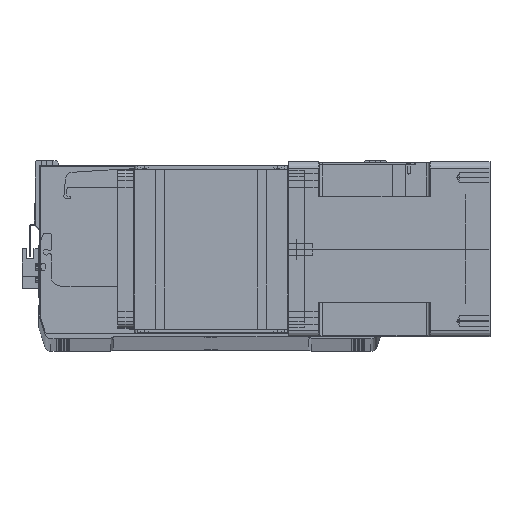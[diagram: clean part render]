
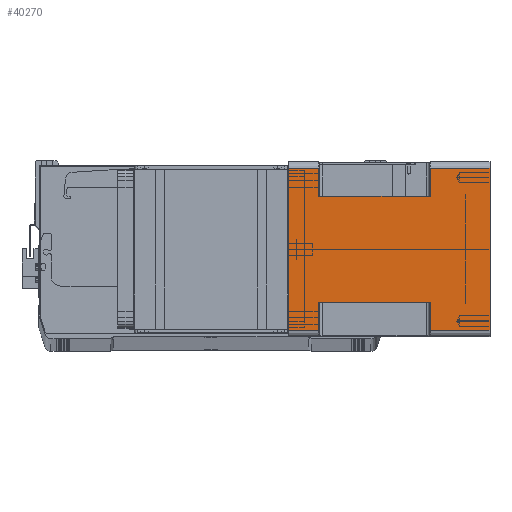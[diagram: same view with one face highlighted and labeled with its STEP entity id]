
A CAD part, top view. The second image highlights one B-rep face of the part: STEP entity #40270.
In plain terms, the highlighted planar face has unit normal (0, 0, 1) as drawn and (1, 0, 0) by its records, which use the part's own axes.
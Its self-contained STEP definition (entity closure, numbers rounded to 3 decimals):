
#286 = CARTESIAN_POINT ( 'NONE',  ( 71., 43., -24.5 ) ) ;
#332 = CARTESIAN_POINT ( 'NONE',  ( 71., 66., -115.5 ) ) ;
#532 = VECTOR ( 'NONE', #41783, 1000. ) ;
#1538 = LINE ( 'NONE', #38523, #532 ) ;
#2046 = EDGE_CURVE ( 'NONE', #23356, #14205, #10011, .T. ) ;
#2096 = DIRECTION ( 'NONE',  ( 0., 1., 0. ) ) ;
#2131 = VECTOR ( 'NONE', #22736, 1000. ) ;
#2623 = VERTEX_POINT ( 'NONE', #6159 ) ;
#2769 = LINE ( 'NONE', #17365, #6338 ) ;
#3198 = CARTESIAN_POINT ( 'NONE',  ( 71., 43., -115.5 ) ) ;
#4113 = CARTESIAN_POINT ( 'NONE',  ( 71., -43., -164. ) ) ;
#5347 = DIRECTION ( 'NONE',  ( 0., 1., 0. ) ) ;
#5501 = VECTOR ( 'NONE', #40144, 1000. ) ;
#5644 = CARTESIAN_POINT ( 'NONE',  ( 71., -66., -164. ) ) ;
#5994 = CARTESIAN_POINT ( 'NONE',  ( 71., -43., -24.5 ) ) ;
#6159 = CARTESIAN_POINT ( 'NONE',  ( 71., -66., -115.5 ) ) ;
#6338 = VECTOR ( 'NONE', #36362, 1000. ) ;
#6934 = VERTEX_POINT ( 'NONE', #28889 ) ;
#7544 = EDGE_CURVE ( 'NONE', #13411, #41571, #33451, .T. ) ;
#8019 = VERTEX_POINT ( 'NONE', #39086 ) ;
#8432 = LINE ( 'NONE', #4113, #18070 ) ;
#8970 = EDGE_CURVE ( 'NONE', #13411, #2623, #34731, .T. ) ;
#9377 = DIRECTION ( 'NONE',  ( 0., 1., 0. ) ) ;
#9381 = EDGE_CURVE ( 'NONE', #41571, #41875, #27566, .T. ) ;
#10011 = LINE ( 'NONE', #12166, #13576 ) ;
#10239 = AXIS2_PLACEMENT_3D ( 'NONE', #35001, #25083, #5347 ) ;
#10729 = ORIENTED_EDGE ( 'NONE', *, *, #7544, .T. ) ;
#12166 = CARTESIAN_POINT ( 'NONE',  ( 71., 43., -164. ) ) ;
#12593 = CARTESIAN_POINT ( 'NONE',  ( 71., -66., -164. ) ) ;
#12986 = LINE ( 'NONE', #27805, #15032 ) ;
#13411 = VERTEX_POINT ( 'NONE', #12593 ) ;
#13576 = VECTOR ( 'NONE', #18961, 1000. ) ;
#14205 = VERTEX_POINT ( 'NONE', #18118 ) ;
#14428 = VECTOR ( 'NONE', #15597, 1000. ) ;
#14535 = LINE ( 'NONE', #15610, #41931 ) ;
#14859 = EDGE_LOOP ( 'NONE', ( #20640, #42116, #25027, #10729, #18561, #17161, #32919, #24262, #33661, #16379, #39282, #23351 ) ) ;
#15032 = VECTOR ( 'NONE', #21409, 1000. ) ;
#15562 = CARTESIAN_POINT ( 'NONE',  ( 71., 66., -24.5 ) ) ;
#15597 = DIRECTION ( 'NONE',  ( 0., 0., 1. ) ) ;
#15610 = CARTESIAN_POINT ( 'NONE',  ( 71., -66., -24.5 ) ) ;
#16379 = ORIENTED_EDGE ( 'NONE', *, *, #33380, .F. ) ;
#16878 = DIRECTION ( 'NONE',  ( 0., 1., 0. ) ) ;
#17161 = ORIENTED_EDGE ( 'NONE', *, *, #39564, .T. ) ;
#17164 = EDGE_CURVE ( 'NONE', #23356, #21871, #14535, .T. ) ;
#17365 = CARTESIAN_POINT ( 'NONE',  ( 71., -66., 0. ) ) ;
#17405 = EDGE_CURVE ( 'NONE', #22379, #6934, #12986, .T. ) ;
#18070 = VECTOR ( 'NONE', #29942, 1000. ) ;
#18118 = CARTESIAN_POINT ( 'NONE',  ( 71., 43., -115.5 ) ) ;
#18561 = ORIENTED_EDGE ( 'NONE', *, *, #9381, .T. ) ;
#18700 = CARTESIAN_POINT ( 'NONE',  ( 71., -43., -24.5 ) ) ;
#18812 = EDGE_CURVE ( 'NONE', #22379, #28773, #29674, .T. ) ;
#18961 = DIRECTION ( 'NONE',  ( 0., 0., -1. ) ) ;
#20431 = VECTOR ( 'NONE', #35698, 1000. ) ;
#20640 = ORIENTED_EDGE ( 'NONE', *, *, #29045, .F. ) ;
#21014 = VECTOR ( 'NONE', #2096, 1000. ) ;
#21409 = DIRECTION ( 'NONE',  ( 0., 0., 1. ) ) ;
#21774 = VECTOR ( 'NONE', #16878, 1000. ) ;
#21871 = VERTEX_POINT ( 'NONE', #15562 ) ;
#22379 = VERTEX_POINT ( 'NONE', #40209 ) ;
#22736 = DIRECTION ( 'NONE',  ( 0., 0., 1. ) ) ;
#23351 = ORIENTED_EDGE ( 'NONE', *, *, #18812, .T. ) ;
#23356 = VERTEX_POINT ( 'NONE', #286 ) ;
#24262 = ORIENTED_EDGE ( 'NONE', *, *, #17164, .T. ) ;
#25027 = ORIENTED_EDGE ( 'NONE', *, *, #8970, .F. ) ;
#25083 = DIRECTION ( 'NONE',  ( 1., 0., 0. ) ) ;
#26293 = CARTESIAN_POINT ( 'NONE',  ( 71., 66., -164. ) ) ;
#27179 = CARTESIAN_POINT ( 'NONE',  ( 71., 66., -164. ) ) ;
#27566 = LINE ( 'NONE', #26293, #2131 ) ;
#27805 = CARTESIAN_POINT ( 'NONE',  ( 71., -66., -164. ) ) ;
#28773 = VERTEX_POINT ( 'NONE', #5994 ) ;
#28823 = CARTESIAN_POINT ( 'NONE',  ( 71., 66., 0. ) ) ;
#28889 = CARTESIAN_POINT ( 'NONE',  ( 71., -66., 0. ) ) ;
#29045 = EDGE_CURVE ( 'NONE', #8019, #28773, #8432, .T. ) ;
#29085 = LINE ( 'NONE', #3198, #20431 ) ;
#29674 = LINE ( 'NONE', #18700, #21014 ) ;
#29942 = DIRECTION ( 'NONE',  ( 0., 0., 1. ) ) ;
#31398 = LINE ( 'NONE', #33911, #5501 ) ;
#31524 = FACE_OUTER_BOUND ( 'NONE', #14859, .T. ) ;
#32354 = VERTEX_POINT ( 'NONE', #28823 ) ;
#32919 = ORIENTED_EDGE ( 'NONE', *, *, #2046, .F. ) ;
#33380 = EDGE_CURVE ( 'NONE', #6934, #32354, #2769, .T. ) ;
#33451 = LINE ( 'NONE', #35896, #21774 ) ;
#33661 = ORIENTED_EDGE ( 'NONE', *, *, #37014, .T. ) ;
#33911 = CARTESIAN_POINT ( 'NONE',  ( 71., 66., -164. ) ) ;
#34731 = LINE ( 'NONE', #5644, #14428 ) ;
#35001 = CARTESIAN_POINT ( 'NONE',  ( 71., -66., -164. ) ) ;
#35698 = DIRECTION ( 'NONE',  ( 0., -1., 0. ) ) ;
#35896 = CARTESIAN_POINT ( 'NONE',  ( 71., -66., -164. ) ) ;
#36362 = DIRECTION ( 'NONE',  ( 0., 1., 0. ) ) ;
#36382 = EDGE_CURVE ( 'NONE', #8019, #2623, #1538, .T. ) ;
#37014 = EDGE_CURVE ( 'NONE', #21871, #32354, #31398, .T. ) ;
#37943 = PLANE ( 'NONE',  #10239 ) ;
#38523 = CARTESIAN_POINT ( 'NONE',  ( 71., -66., -115.5 ) ) ;
#39086 = CARTESIAN_POINT ( 'NONE',  ( 71., -43., -115.5 ) ) ;
#39282 = ORIENTED_EDGE ( 'NONE', *, *, #17405, .F. ) ;
#39564 = EDGE_CURVE ( 'NONE', #41875, #14205, #29085, .T. ) ;
#40144 = DIRECTION ( 'NONE',  ( 0., 0., 1. ) ) ;
#40209 = CARTESIAN_POINT ( 'NONE',  ( 71., -66., -24.5 ) ) ;
#40270 = ADVANCED_FACE ( 'NONE', ( #31524 ), #37943, .T. ) ;
#41571 = VERTEX_POINT ( 'NONE', #27179 ) ;
#41783 = DIRECTION ( 'NONE',  ( 0., -1., 0. ) ) ;
#41875 = VERTEX_POINT ( 'NONE', #332 ) ;
#41931 = VECTOR ( 'NONE', #9377, 1000. ) ;
#42116 = ORIENTED_EDGE ( 'NONE', *, *, #36382, .T. ) ;
